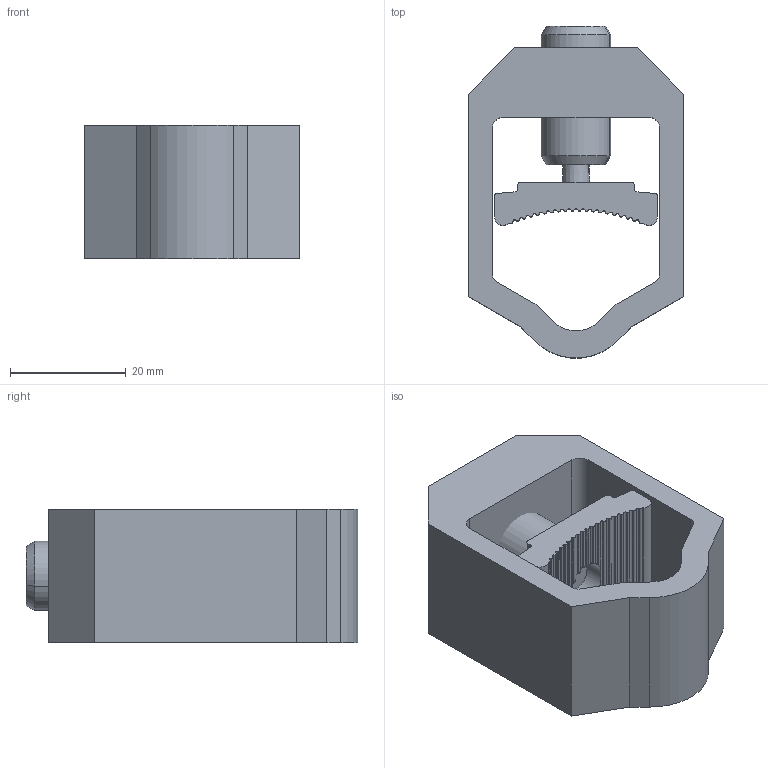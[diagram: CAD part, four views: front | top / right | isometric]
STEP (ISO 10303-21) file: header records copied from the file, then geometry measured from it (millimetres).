
FILE_DESCRIPTION (( 'STEP AP214' ), '1' );
FILE_NAME ('95-300SW.STEP', '2010-03-18T11:42:05', ( '£ukaszC' ), ( '' ), 'SwSTEP 2.0', 'SolidWorks 2008', '' );
FILE_SCHEMA (( 'AUTOMOTIVE_DESIGN' ));
Length unit declared in the file: millimetre
Products named in the file (4): 4.95300SW.03.00.00_Rozwiercanie; 95-300SW; 4.95300SW.01.00.00; 4.95300SW.02.00.00
Assembly tree (3 placements, depth 2):
  95-300SW
    4.95300SW.01.00.00
    4.95300SW.02.00.00
    4.95300SW.03.00.00_Rozwiercanie
Bounding box: 37.4 x 57.46 x 23.2 mm (x, y, z)
Volume: 23478.9 mm3; surface area: 11653.3 mm2
Topology: 3 solids, 3 shells, 176 faces, 496 edges, 327 vertices
Faces by surface type: plane 88, cylinder 76, cone 12
Entity records: 6029 total; most frequent: CARTESIAN_POINT 1313, ORIENTED_EDGE 988, DIRECTION 940, EDGE_CURVE 494, VERTEX_POINT 327, AXIS2_PLACEMENT_3D 322, VECTOR 296, LINE 296
